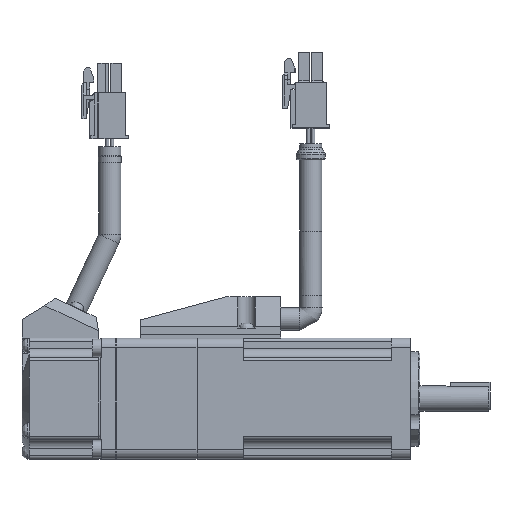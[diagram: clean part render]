
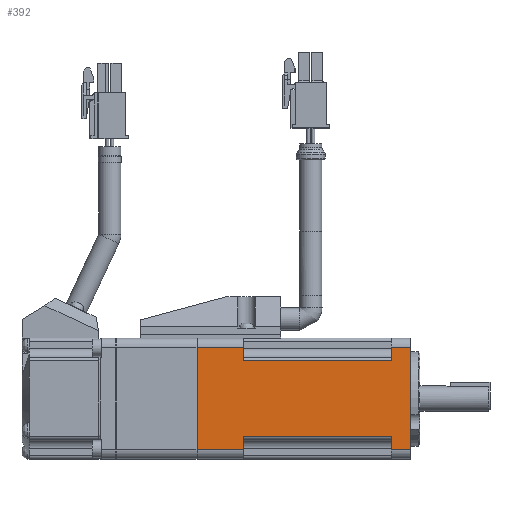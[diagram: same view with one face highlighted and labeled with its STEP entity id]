
A CAD part, top view. The second image highlights one B-rep face of the part: STEP entity #392.
In plain terms, the highlighted planar face has unit normal (0, 0, 1).
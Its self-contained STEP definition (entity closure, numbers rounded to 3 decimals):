
#392 = ADVANCED_FACE( '', ( #1165 ), #1166, .F. );
#1165 = FACE_OUTER_BOUND( '', #2882, .T. );
#1166 = PLANE( '', #2883 );
#2882 = EDGE_LOOP( '', ( #4872, #4873, #4874, #4875, #4876, #4877, #4878, #4879, #4880, #4881, #4882, #4883 ) );
#2883 = AXIS2_PLACEMENT_3D( '', #4884, #4885, #4886 );
#4872 = ORIENTED_EDGE( '', *, *, #10831, .F. );
#4873 = ORIENTED_EDGE( '', *, *, #10832, .T. );
#4874 = ORIENTED_EDGE( '', *, *, #10833, .T. );
#4875 = ORIENTED_EDGE( '', *, *, #10834, .F. );
#4876 = ORIENTED_EDGE( '', *, *, #10835, .T. );
#4877 = ORIENTED_EDGE( '', *, *, #10836, .T. );
#4878 = ORIENTED_EDGE( '', *, *, #10837, .F. );
#4879 = ORIENTED_EDGE( '', *, *, #10838, .F. );
#4880 = ORIENTED_EDGE( '', *, *, #10839, .T. );
#4881 = ORIENTED_EDGE( '', *, *, #10840, .T. );
#4882 = ORIENTED_EDGE( '', *, *, #10841, .F. );
#4883 = ORIENTED_EDGE( '', *, *, #10842, .F. );
#4884 = CARTESIAN_POINT( '', ( 6., 16., 19. ) );
#4885 = DIRECTION( '', ( 0., 0., -1. ) );
#4886 = DIRECTION( '', ( -1., 0., 0. ) );
#10831 = EDGE_CURVE( '', #12673, #12674, #12675, .T. );
#10832 = EDGE_CURVE( '', #12673, #12676, #12677, .T. );
#10833 = EDGE_CURVE( '', #12676, #12678, #12679, .T. );
#10834 = EDGE_CURVE( '', #12680, #12678, #12681, .T. );
#10835 = EDGE_CURVE( '', #12680, #12682, #12683, .T. );
#10836 = EDGE_CURVE( '', #12682, #12684, #12685, .T. );
#10837 = EDGE_CURVE( '', #12686, #12684, #12687, .T. );
#10838 = EDGE_CURVE( '', #12688, #12686, #12689, .T. );
#10839 = EDGE_CURVE( '', #12688, #12690, #12691, .T. );
#10840 = EDGE_CURVE( '', #12690, #12692, #12693, .T. );
#10841 = EDGE_CURVE( '', #12694, #12692, #12695, .T. );
#10842 = EDGE_CURVE( '', #12674, #12694, #12696, .T. );
#12673 = VERTEX_POINT( '', #15763 );
#12674 = VERTEX_POINT( '', #15764 );
#12675 = LINE( '', #15765, #15766 );
#12676 = VERTEX_POINT( '', #15767 );
#12677 = LINE( '', #15768, #15769 );
#12678 = VERTEX_POINT( '', #15770 );
#12679 = LINE( '', #15771, #15772 );
#12680 = VERTEX_POINT( '', #15773 );
#12681 = LINE( '', #15774, #15775 );
#12682 = VERTEX_POINT( '', #15776 );
#12683 = LINE( '', #15777, #15778 );
#12684 = VERTEX_POINT( '', #15779 );
#12685 = LINE( '', #15780, #15781 );
#12686 = VERTEX_POINT( '', #15782 );
#12687 = LINE( '', #15783, #15784 );
#12688 = VERTEX_POINT( '', #15785 );
#12689 = LINE( '', #15786, #15787 );
#12690 = VERTEX_POINT( '', #15788 );
#12691 = LINE( '', #15789, #15790 );
#12692 = VERTEX_POINT( '', #15791 );
#12693 = LINE( '', #15792, #15793 );
#12694 = VERTEX_POINT( '', #15794 );
#12695 = LINE( '', #15795, #15796 );
#12696 = LINE( '', #15797, #15798 );
#15763 = CARTESIAN_POINT( '', ( -61., 16., 19. ) );
#15764 = CARTESIAN_POINT( '', ( -46.5, 16., 19. ) );
#15765 = CARTESIAN_POINT( '', ( -91.5, 16., 19. ) );
#15766 = VECTOR( '', #20469, 1000. );
#15767 = CARTESIAN_POINT( '', ( -61., -16., 19. ) );
#15768 = CARTESIAN_POINT( '', ( -61., 16., 19. ) );
#15769 = VECTOR( '', #20470, 1000. );
#15770 = CARTESIAN_POINT( '', ( -46.5, -16., 19. ) );
#15771 = CARTESIAN_POINT( '', ( -91.5, -16., 19. ) );
#15772 = VECTOR( '', #20471, 1000. );
#15773 = CARTESIAN_POINT( '', ( -46.5, -11.85, 19. ) );
#15774 = CARTESIAN_POINT( '', ( -46.5, 16., 19. ) );
#15775 = VECTOR( '', #20472, 1000. );
#15776 = CARTESIAN_POINT( '', ( 0., -11.85, 19. ) );
#15777 = CARTESIAN_POINT( '', ( -46.5, -11.85, 19. ) );
#15778 = VECTOR( '', #20473, 1000. );
#15779 = CARTESIAN_POINT( '', ( 0., -16., 19. ) );
#15780 = CARTESIAN_POINT( '', ( 0., 16., 19. ) );
#15781 = VECTOR( '', #20474, 1000. );
#15782 = CARTESIAN_POINT( '', ( 6., -16., 19. ) );
#15783 = CARTESIAN_POINT( '', ( 6., -16., 19. ) );
#15784 = VECTOR( '', #20475, 1000. );
#15785 = CARTESIAN_POINT( '', ( 6., 16., 19. ) );
#15786 = CARTESIAN_POINT( '', ( 6., 16., 19. ) );
#15787 = VECTOR( '', #20476, 1000. );
#15788 = CARTESIAN_POINT( '', ( 0., 16., 19. ) );
#15789 = CARTESIAN_POINT( '', ( 6., 16., 19. ) );
#15790 = VECTOR( '', #20477, 1000. );
#15791 = CARTESIAN_POINT( '', ( 0., 11.85, 19. ) );
#15792 = CARTESIAN_POINT( '', ( 0., 16., 19. ) );
#15793 = VECTOR( '', #20478, 1000. );
#15794 = CARTESIAN_POINT( '', ( -46.5, 11.85, 19. ) );
#15795 = CARTESIAN_POINT( '', ( -46.5, 11.85, 19. ) );
#15796 = VECTOR( '', #20479, 1000. );
#15797 = CARTESIAN_POINT( '', ( -46.5, 16., 19. ) );
#15798 = VECTOR( '', #20480, 1000. );
#20469 = DIRECTION( '', ( 1., 0., 0. ) );
#20470 = DIRECTION( '', ( 0., -1., 0. ) );
#20471 = DIRECTION( '', ( 1., 0., 0. ) );
#20472 = DIRECTION( '', ( 0., -1., 0. ) );
#20473 = DIRECTION( '', ( 1., 0., 0. ) );
#20474 = DIRECTION( '', ( 0., -1., 0. ) );
#20475 = DIRECTION( '', ( -1., 0., 0. ) );
#20476 = DIRECTION( '', ( 0., -1., 0. ) );
#20477 = DIRECTION( '', ( -1., 0., 0. ) );
#20478 = DIRECTION( '', ( 0., -1., 0. ) );
#20479 = DIRECTION( '', ( 1., 0., 0. ) );
#20480 = DIRECTION( '', ( 0., -1., 0. ) );
